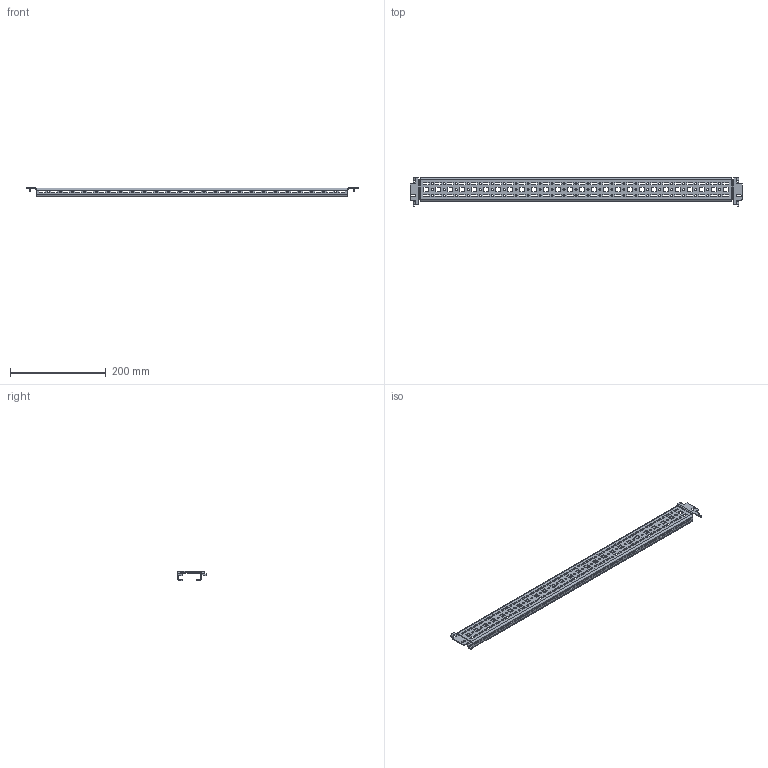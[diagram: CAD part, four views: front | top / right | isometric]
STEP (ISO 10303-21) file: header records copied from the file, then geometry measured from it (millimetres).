
FILE_DESCRIPTION (( 'STEP AP203' ), '1' );
FILE_NAME ('MMD 70.06 Øàññè ñèñòåìíîå.STEP', '2025-05-15T11:44:14', ( '' ), ( '' ), 'SwSTEP 2.0', 'SolidWorks 2019', '' );
FILE_SCHEMA (( 'CONFIG_CONTROL_DESIGN' ));
Length unit declared in the file: millimetre
Products named in the file (1): MMD 70.06 Øàññè ñèñòåìíîå
Bounding box: 692.72 x 60.5 x 20.03 mm (x, y, z)
Volume: 104789.7 mm3; surface area: 120557.5 mm2
Topology: 1 solids, 1 shells, 946 faces, 2752 edges, 1808 vertices
Faces by surface type: plane 626, cylinder 320
Entity records: 32237 total; most frequent: CARTESIAN_POINT 5575, ORIENTED_EDGE 5504, DIRECTION 5270, EDGE_CURVE 2752, LINE 2096, VECTOR 2096, VERTEX_POINT 1808, AXIS2_PLACEMENT_3D 1587
